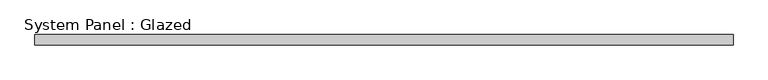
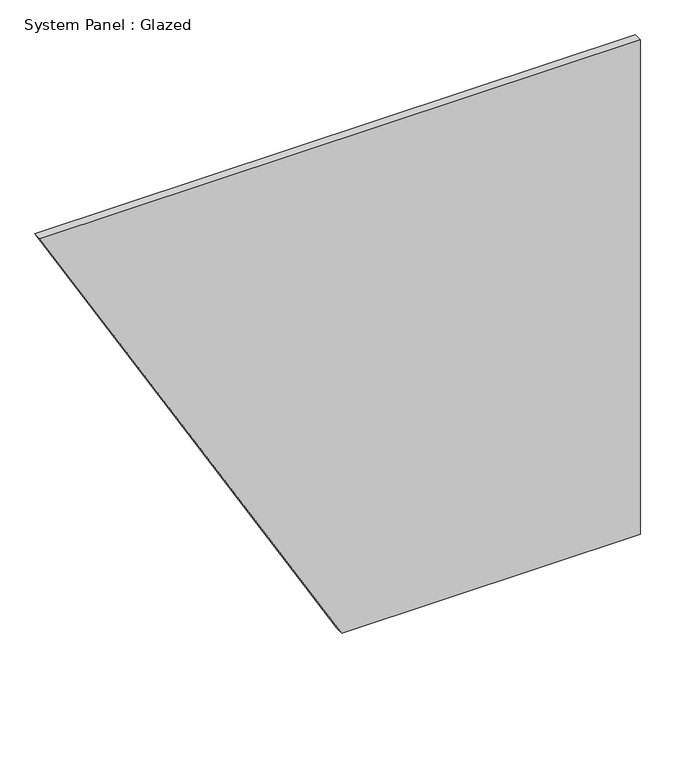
"""IFC4 building model written with IfcOpenShell, lengths in millimetres: plate geometry, System Panel : Glazed."""

from ifc_helpers import new_model, si_unit, frame, origin, place, context, project, spatial, polyline, outline, extrude, source, transform, mapped, element, save


def system_panel_glazed_1eba4097(model_context):
    return source(origin(), model_context, "Body", "SweptSolid", [
        extrude(outline(polyline([(0.0, 5.0565626), (0.0, 874.8252477), (1524.0, 874.8252477), (1524.0, -874.8252477), (0.0, 5.0565626)])), frame((0.0, 19.05, 0.0), z_axis=(0.0, 1.0, 0.0), x_axis=(0.0, 0.0, 1.0)), (0.0, 0.0, 1.0), 25.4),
    ])


if __name__ == "__main__":
    model = new_model("IFC4")
    model_context = context("Model", 3, world=origin())
    ifc_project = project(units=[si_unit("LENGTHUNIT", "METRE", prefix="MILLI")], contexts=[model_context])
    site = spatial("IfcSite", under=ifc_project)
    building = spatial("IfcBuilding", under=site)
    placement = place(None, origin())
    system_panel_glazed_shape = system_panel_glazed_1eba4097(model_context)
    element("IfcPlate", 1, ObjectType="System Panel : Glazed", at=placement, inside=building, context=model_context, shape_type="MappedRepresentation", body=[
        mapped(system_panel_glazed_shape, transform((0.0, 0.0, 0.0), x_axis=(1.0, 0.0, 0.0), y_axis=(0.0, 1.0, 0.0), z_axis=(0.0, 0.0, 1.0))),
    ])
    save(model, "model.ifc")
